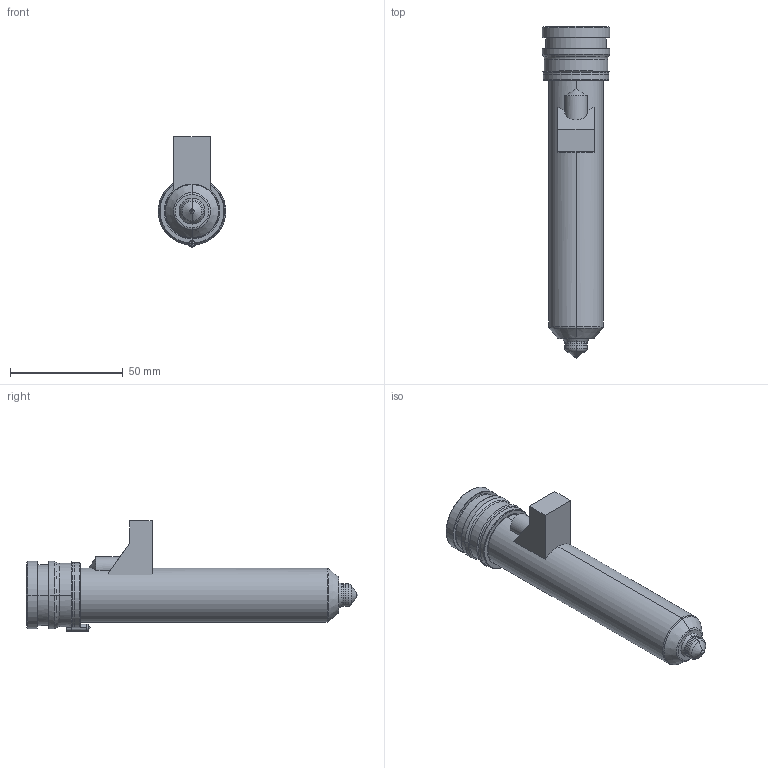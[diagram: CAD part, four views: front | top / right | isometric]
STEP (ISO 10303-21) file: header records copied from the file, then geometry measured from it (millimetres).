
FILE_DESCRIPTION((''),'2;1');
FILE_NAME('MPN-10-29-TX10-126-M','2026-02-05T12:51:20',('UPTIO'),('Thermoplay S.p.A.'),'CREO PARAMETRIC BY PTC INC, 2023494','CREO PARAMETRIC BY PTC INC, 2023494','');
FILE_SCHEMA(('CONFIG_CONTROL_DESIGN','SHAPE_APPEARANCE_LAYERS_GROUPS'));
Length unit declared in the file: millimetre
Products named in the file (1): MPN-10-29-TX10-126-M
Bounding box: 30 x 147.5 x 49 mm (x, y, z)
Volume: 46156.2 mm3; surface area: 47338.6 mm2
Topology: 3 solids, 5 shells, 541 faces, 1383 edges, 844 vertices
Faces by surface type: cylinder 177, plane 146, bspline 73, torus 67, cone 64, sphere 10, extrusion 4
Entity records: 26716 total; most frequent: CARTESIAN_POINT 10950, ORIENTED_EDGE 2748, DIRECTION 2568, EDGE_CURVE 1374, AXIS2_PLACEMENT_3D 1017, VERTEX_POINT 844, EDGE_LOOP 570, CIRCLE 552
